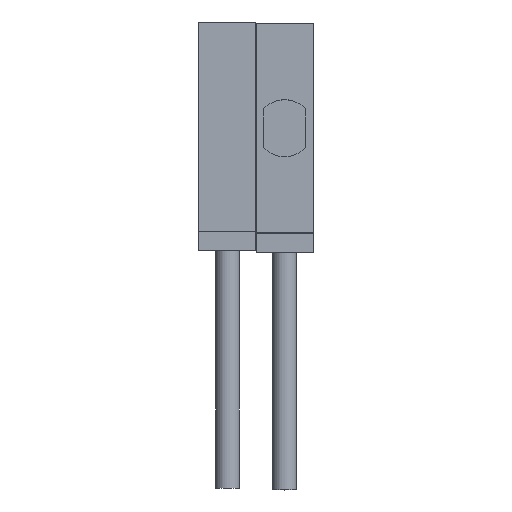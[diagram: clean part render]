
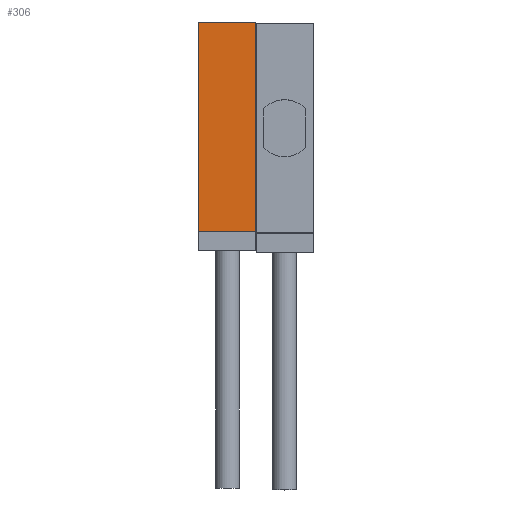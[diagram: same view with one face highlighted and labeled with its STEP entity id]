
A CAD part, top view. The second image highlights one B-rep face of the part: STEP entity #306.
In plain terms, the highlighted planar face has unit normal (0, 0, 1) as drawn and (1, 0, 0) by its records, which use the part's own axes.
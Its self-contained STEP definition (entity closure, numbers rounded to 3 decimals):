
#305 = EDGE_CURVE ( 'NONE', #326, #340, #965, .T. ) ;
#306 = ADVANCED_FACE ( 'NONE', ( #961 ), #1027, .T. ) ;
#307 = EDGE_LOOP ( 'NONE', ( #308, #310, #319, #320 ) ) ;
#308 = ORIENTED_EDGE ( 'NONE', *, *, #309, .F. ) ;
#309 = EDGE_CURVE ( 'NONE', #329, #337, #1022, .T. ) ;
#310 = ORIENTED_EDGE ( 'NONE', *, *, #328, .F. ) ;
#319 = ORIENTED_EDGE ( 'NONE', *, *, #305, .T. ) ;
#320 = ORIENTED_EDGE ( 'NONE', *, *, #339, .T. ) ;
#326 = VERTEX_POINT ( 'NONE', #1048 ) ;
#328 = EDGE_CURVE ( 'NONE', #326, #329, #1047, .T. ) ;
#329 = VERTEX_POINT ( 'NONE', #1043 ) ;
#337 = VERTEX_POINT ( 'NONE', #1033 ) ;
#339 = EDGE_CURVE ( 'NONE', #340, #337, #1032, .T. ) ;
#340 = VERTEX_POINT ( 'NONE', #1028 ) ;
#961 = FACE_OUTER_BOUND ( 'NONE', #307, .T. ) ;
#962 = DIRECTION ( 'NONE',  ( 0., 0., -1. ) ) ;
#963 = VECTOR ( 'NONE', #962, 1000. ) ;
#964 = CARTESIAN_POINT ( 'NONE',  ( 8., -11., 0. ) ) ;
#965 = LINE ( 'NONE', #964, #963 ) ;
#1019 = DIRECTION ( 'NONE',  ( 0., 0., -1. ) ) ;
#1020 = VECTOR ( 'NONE', #1019, 1000. ) ;
#1021 = CARTESIAN_POINT ( 'NONE',  ( 8., 0., 0. ) ) ;
#1022 = LINE ( 'NONE', #1021, #1020 ) ;
#1023 = DIRECTION ( 'NONE',  ( 0., 0., -1. ) ) ;
#1024 = DIRECTION ( 'NONE',  ( 1., 0., 0. ) ) ;
#1025 = CARTESIAN_POINT ( 'NONE',  ( 8., -11., 0. ) ) ;
#1026 = AXIS2_PLACEMENT_3D ( 'NONE', #1025, #1024, #1023 ) ;
#1027 = PLANE ( 'NONE',  #1026 ) ;
#1028 = CARTESIAN_POINT ( 'NONE',  ( 8., -11., 0. ) ) ;
#1029 = DIRECTION ( 'NONE',  ( 0., 1., 0. ) ) ;
#1030 = VECTOR ( 'NONE', #1029, 1000. ) ;
#1031 = CARTESIAN_POINT ( 'NONE',  ( 8., -11., 0. ) ) ;
#1032 = LINE ( 'NONE', #1031, #1030 ) ;
#1033 = CARTESIAN_POINT ( 'NONE',  ( 8., 0., 0. ) ) ;
#1043 = CARTESIAN_POINT ( 'NONE',  ( 8., 0., 3. ) ) ;
#1044 = DIRECTION ( 'NONE',  ( 0., 1., 0. ) ) ;
#1045 = VECTOR ( 'NONE', #1044, 1000. ) ;
#1046 = CARTESIAN_POINT ( 'NONE',  ( 8., -11., 3. ) ) ;
#1047 = LINE ( 'NONE', #1046, #1045 ) ;
#1048 = CARTESIAN_POINT ( 'NONE',  ( 8., -11., 3. ) ) ;
